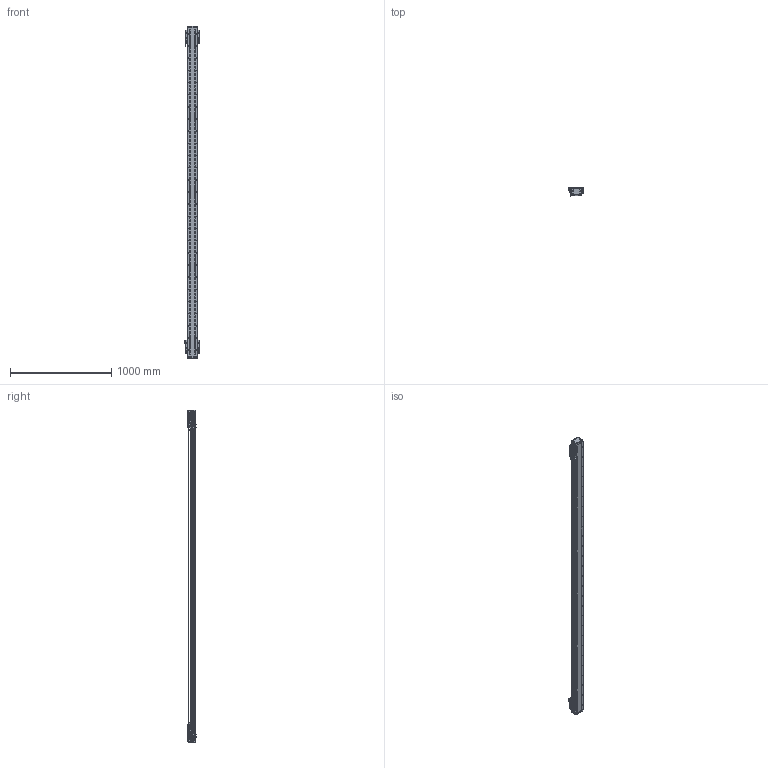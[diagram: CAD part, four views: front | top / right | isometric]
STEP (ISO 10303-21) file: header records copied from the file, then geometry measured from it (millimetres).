
FILE_DESCRIPTION (( 'STEP AP203' ), '1' );
FILE_NAME ('DA-B95-2-B15-T2900-C010-0.2 直线电机.STEP', '2023-05-06T06:43:48', ( '微软用户' ), ( '微软中国' ), 'SwSTEP 2.0', 'SolidWorks 2019', '' );
FILE_SCHEMA (( 'CONFIG_CONTROL_DESIGN' ));
Length unit declared in the file: millimetre
Products named in the file (34): 66245-BU95-V-00 珨极趙賑雄怢啣; 复件 复件 18252-0001-002-00 钢带垫块^DA-A95-B15-T-C010-0.2-N 直线电机; IU-BU95-L-00 菁釱_L3240; IU-BU95-L 菁釱絳寢; 葩璃 BKM015-W060-C1-TP-DA-0.2^DA-A95-B15-T-C010-0.2-N 眻盄萇儂; DA95-HXJ-00 缓冲橡胶^DA-A95-B15-T-C010-0.2-N 直线电机; 葩璃 DA95-B15-DP-A-00 菜えA^66245-BU95-V 幗紩賑怢; 葩璃 PM-Y45^DA-A95-B15-T-C010-0.2-N 眻盄萇儂; 复件 DKW-KGZ-ZJ-00 中间光电开关支架^DA-A95-B15-T-C010-0.2-N 直线电机; DA-A95-GYP-00 光电感应片^DA-A95-B15-T-C010-0.2-N 直线电机; 复件 DA95-DK-00 挡块^66245-BU95-V 滚珠滑台; 复件 复件 18252-0001-003-00 钢带拉块^DA-A95-B15-T-C010-0.2-N 直线电机; LMDK-2-R001-V5-L02-C1-F00，0.2M 读数头^DA-A95-B15-T-C010-0.2-N 直线电机_DMA-010-0.2; 复件 DA95-DB-00  挡板^66245-BU95-V 滚珠滑台; 复件 纯铜油杯 6x6mm^66245-BU95-V 滚珠滑台; DA-B95-2-B15-T2900-C010-0.2 眻盄萇儂; 复件 DKW-HXJ-JY-00 缓冲橡胶^DA-A95-B15-T-C010-0.2-N 直线电机; 复件 DA95-B15-YB-B-00 压板B^66245-BU95-V 滚珠滑台; 复件 DKW-GYP-ZJ-00 中间光电感应片^DA-A95-B15-T-C010-0.2-N 直线电机; B15 XD-U-02L ｴﾅﾕ､ｳﾟ^DA-A95-B15-T-C010-0.2-N ﾖｱﾏﾟｵ扈銈XD-U-02L; 复件 六角薄螺母 M3^DA-A95-B15-T-C010-0.2-N 直线电机_GB_FASTENER_NUT_STNAB M3-C; 葩璃 DA95-GT-T-00^IU-BU95-L 菁釱絳寢_DA95; 葩璃 DA95-B15-DP--B-00 菜えB^66245-BU95-V 幗紩賑怢; 葩璃 BKMA01-W060-TRL^DA-A95-B15-T-C010-0.2-N 眻盄萇儂; 复件 DA95-B15-YB-A-00 压板A^66245-BU95-V 滚珠滑台; 复件 66245-BU95-HT-V-01 滑动台板^66245-BU95-V-00 一体化滑动台板; 复件 DA95-MFP-01 密封片^66245-BU95-V 滚珠滑台; 复件 DA95-B15 钢带盖板^DA-A95-B15-T-C010-0.2-N 直线电机; 66245-BU95-V 幗紩賑怢; PM-T45 光电开关^DA-A95-B15-T-C010-0.2-N 直线电机; 复件 DA95-HK-GT-00 滑块钢轨^66245-BU95-V-00 一体化滑动台板; 复件 复件 18252-0001-004-00 钢带端盖^DA-A95-B15-T-C010-0.2-N 直线电机
Assembly tree (80 placements, depth 4):
  DA-B95-2-B15-T2900-C010-0.2 眻盄萇儂
    IU-BU95-L 菁釱絳寢
      IU-BU95-L-00 菁釱_L3240
      葩璃 DA95-GT-T-00^IU-BU95-L 菁釱絳寢_DA95  x2
    66245-BU95-V 幗紩賑怢
      66245-BU95-V-00 珨极趙賑雄怢啣
        复件 66245-BU95-HT-V-01 滑动台板^66245-BU95-V-00 一体化滑动台板
        复件 DA95-HK-GT-00 滑块钢轨^66245-BU95-V-00 一体化滑动台板  x2
      葩璃 DA95-B15-DP-A-00 菜えA^66245-BU95-V 幗紩賑怢
      复件 DA95-B15-YB-A-00 压板A^66245-BU95-V 滚珠滑台
      复件 DA95-B15-YB-B-00 压板B^66245-BU95-V 滚珠滑台
      复件 DA95-DB-00  挡板^66245-BU95-V 滚珠滑台  x4
      复件 DA95-DK-00 挡块^66245-BU95-V 滚珠滑台  x2
      复件 DA95-MFP-01 密封片^66245-BU95-V 滚珠滑台  x4
      复件 纯铜油杯 6x6mm^66245-BU95-V 滚珠滑台  x2
      葩璃 DA95-B15-DP--B-00 菜えB^66245-BU95-V 幗紩賑怢
    66245-BU95-V 幗紩賑怢
      66245-BU95-V-00 珨极趙賑雄怢啣
        复件 66245-BU95-HT-V-01 滑动台板^66245-BU95-V-00 一体化滑动台板
        复件 DA95-HK-GT-00 滑块钢轨^66245-BU95-V-00 一体化滑动台板  x2
      葩璃 DA95-B15-DP-A-00 菜えA^66245-BU95-V 幗紩賑怢
      复件 DA95-B15-YB-A-00 压板A^66245-BU95-V 滚珠滑台
      复件 DA95-B15-YB-B-00 压板B^66245-BU95-V 滚珠滑台
      复件 DA95-DB-00  挡板^66245-BU95-V 滚珠滑台  x4
      复件 DA95-DK-00 挡块^66245-BU95-V 滚珠滑台  x2
      复件 DA95-MFP-01 密封片^66245-BU95-V 滚珠滑台  x4
      复件 纯铜油杯 6x6mm^66245-BU95-V 滚珠滑台  x2
      葩璃 DA95-B15-DP--B-00 菜えB^66245-BU95-V 幗紩賑怢
    DA-A95-GYP-00 光电感应片^DA-A95-B15-T-C010-0.2-N 直线电机  x2
    LMDK-2-R001-V5-L02-C1-F00，0.2M 读数头^DA-A95-B15-T-C010-0.2-N 直线电机_DMA-010-0.2  x2
    复件 DKW-KGZ-ZJ-00 中间光电开关支架^DA-A95-B15-T-C010-0.2-N 直线电机
    葩璃 PM-Y45^DA-A95-B15-T-C010-0.2-N 眻盄萇儂
    复件 DKW-GYP-ZJ-00 中间光电感应片^DA-A95-B15-T-C010-0.2-N 直线电机
    葩璃 BKM015-W060-C1-TP-DA-0.2^DA-A95-B15-T-C010-0.2-N 眻盄萇儂  x2
    复件 DKW-HXJ-JY-00 缓冲橡胶^DA-A95-B15-T-C010-0.2-N 直线电机  x2
    PM-T45 光电开关^DA-A95-B15-T-C010-0.2-N 直线电机  x4
    B15 XD-U-02L ｴﾅﾕ､ｳﾟ^DA-A95-B15-T-C010-0.2-N ﾖｱﾏﾟｵ扈銈XD-U-02L
    复件 复件 18252-0001-003-00 钢带拉块^DA-A95-B15-T-C010-0.2-N 直线电机  x2
    复件 复件 18252-0001-002-00 钢带垫块^DA-A95-B15-T-C010-0.2-N 直线电机  x2
    复件 复件 18252-0001-004-00 钢带端盖^DA-A95-B15-T-C010-0.2-N 直线电机  x2
    复件 DA95-B15 钢带盖板^DA-A95-B15-T-C010-0.2-N 直线电机
    DA95-HXJ-00 缓冲橡胶^DA-A95-B15-T-C010-0.2-N 直线电机  x4
    葩璃 BKMA01-W060-TRL^DA-A95-B15-T-C010-0.2-N 眻盄萇儂
    复件 六角薄螺母 M3^DA-A95-B15-T-C010-0.2-N 直线电机_GB_FASTENER_NUT_STNAB M3-C  x6
Bounding box: 145.4 x 90.2 x 3276 mm (x, y, z)
Volume: 10284829.5 mm3; surface area: 3436149.8 mm2
Topology: 75 solids, 93 shells, 4516 faces, 12988 edges, 8271 vertices
Faces by surface type: cylinder 2397, plane 1587, cone 464, torus 64, sphere 4
Entity records: 116760 total; most frequent: CARTESIAN_POINT 31798, ORIENTED_EDGE 17334, DIRECTION 16492, EDGE_CURVE 8667, AXIS2_PLACEMENT_3D 6309, VERTEX_POINT 5673, LINE 3874, VECTOR 3874
